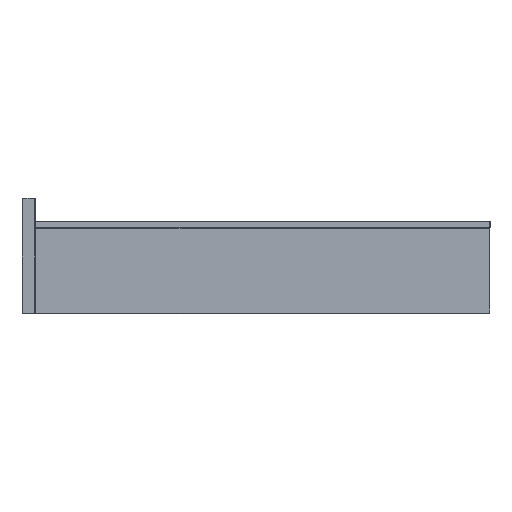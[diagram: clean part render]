
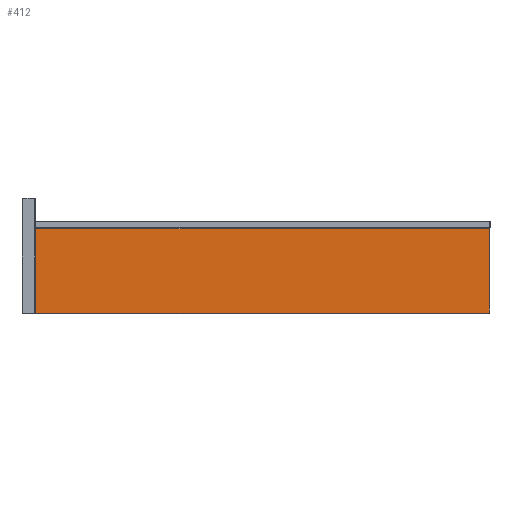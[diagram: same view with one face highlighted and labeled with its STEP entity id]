
A CAD part, left-side view. The second image highlights one B-rep face of the part: STEP entity #412.
In plain terms, the highlighted planar face has unit normal (-1, 0, 0) as drawn and (0, 1, 0) by its records, which use the part's own axes.
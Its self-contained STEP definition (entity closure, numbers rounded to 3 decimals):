
#214 = LINE ( 'NONE', #2445, #1198 ) ;
#412 = ADVANCED_FACE ( 'NONE', ( #1694 ), #463, .F. ) ;
#463 = PLANE ( 'NONE',  #1096 ) ;
#558 = DIRECTION ( 'NONE',  ( 0., -1., 0. ) ) ;
#604 = DIRECTION ( 'NONE',  ( 0., 0., 1. ) ) ;
#629 = CARTESIAN_POINT ( 'NONE',  ( 0., 10., 344. ) ) ;
#653 = ORIENTED_EDGE ( 'NONE', *, *, #1062, .T. ) ;
#687 = LINE ( 'NONE', #2168, #1042 ) ;
#732 = EDGE_LOOP ( 'NONE', ( #1102, #801, #653, #1675 ) ) ;
#750 = VERTEX_POINT ( 'NONE', #1586 ) ;
#801 = ORIENTED_EDGE ( 'NONE', *, *, #1619, .T. ) ;
#831 = LINE ( 'NONE', #629, #1321 ) ;
#913 = CARTESIAN_POINT ( 'NONE',  ( 64., 10., -344. ) ) ;
#954 = DIRECTION ( 'NONE',  ( 0., 0., -1. ) ) ;
#1007 = DIRECTION ( 'NONE',  ( 0., 0., -1. ) ) ;
#1036 = DIRECTION ( 'NONE',  ( 1., 0., 0. ) ) ;
#1042 = VECTOR ( 'NONE', #1090, 1000. ) ;
#1046 = EDGE_CURVE ( 'NONE', #750, #1845, #214, .T. ) ;
#1062 = EDGE_CURVE ( 'NONE', #2029, #1295, #2271, .T. ) ;
#1073 = CARTESIAN_POINT ( 'NONE',  ( -64., 10., 344. ) ) ;
#1090 = DIRECTION ( 'NONE',  ( -1., 0., 0. ) ) ;
#1096 = AXIS2_PLACEMENT_3D ( 'NONE', #1994, #558, #954 ) ;
#1102 = ORIENTED_EDGE ( 'NONE', *, *, #1046, .T. ) ;
#1198 = VECTOR ( 'NONE', #604, 1000. ) ;
#1295 = VERTEX_POINT ( 'NONE', #913 ) ;
#1321 = VECTOR ( 'NONE', #1036, 1000. ) ;
#1333 = CARTESIAN_POINT ( 'NONE',  ( 64., 10., 344. ) ) ;
#1441 = CARTESIAN_POINT ( 'NONE',  ( 64., 10., 0. ) ) ;
#1453 = VECTOR ( 'NONE', #1007, 1000. ) ;
#1586 = CARTESIAN_POINT ( 'NONE',  ( -64., 10., -344. ) ) ;
#1619 = EDGE_CURVE ( 'NONE', #1845, #2029, #831, .T. ) ;
#1675 = ORIENTED_EDGE ( 'NONE', *, *, #2093, .T. ) ;
#1694 = FACE_OUTER_BOUND ( 'NONE', #732, .T. ) ;
#1845 = VERTEX_POINT ( 'NONE', #1073 ) ;
#1994 = CARTESIAN_POINT ( 'NONE',  ( 0., 10., 0. ) ) ;
#2029 = VERTEX_POINT ( 'NONE', #1333 ) ;
#2093 = EDGE_CURVE ( 'NONE', #1295, #750, #687, .T. ) ;
#2168 = CARTESIAN_POINT ( 'NONE',  ( 0., 10., -344. ) ) ;
#2271 = LINE ( 'NONE', #1441, #1453 ) ;
#2445 = CARTESIAN_POINT ( 'NONE',  ( -64., 10., 0. ) ) ;
